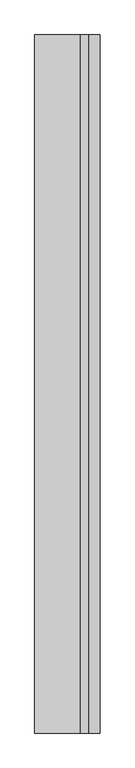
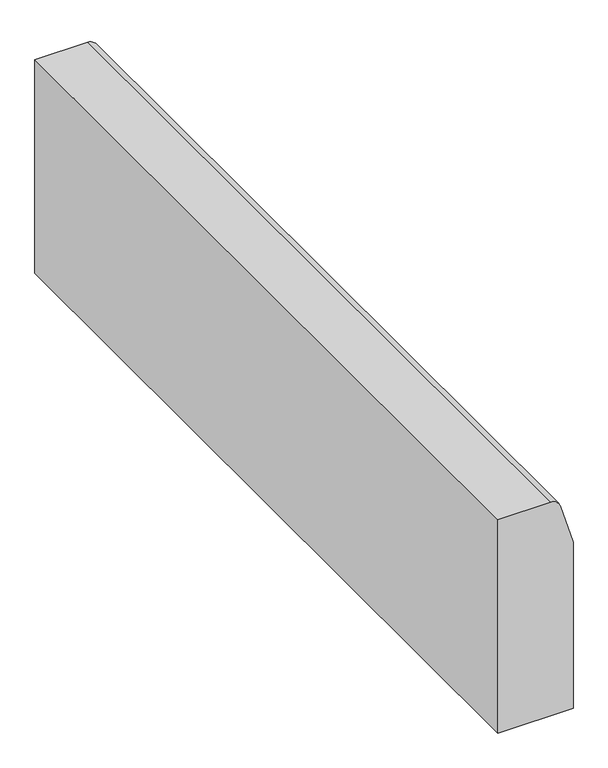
"""IFC4 building model written with IfcOpenShell, lengths in millimetres: railing geometry, BORDILLO BARRERA RECTA_MDSA-U10-4540_TITAN_40x45x15."""

from ifc_helpers import new_model, si_unit, point, frame, frame_2d, origin, place, context, project, spatial, polyline, circle_curve, trimmed, segment, composite_curve, outline, extrude, source, transform, mapped, element, save


def railing_d3ae6c80(model_context):
    return source(origin(), model_context, "Body", "SweptSolid", [
        extrude(outline(composite_curve([segment(polyline([(450.0, -843.8343252), (0.0, -843.8343252), (0.0, -693.8343252), (350.0, -693.8343252), (435.7469577, -719.5584125)]), True, "CONTINUOUS"), segment(trimmed(circle_curve(frame_2d((430.0, -738.7149382)), 20.0), [point((435.7469577, -719.5584125))], [point((450.0, -738.7149382))], False, "CARTESIAN"), True, "CONTINUOUS"), segment(polyline([(450.0, -738.7149382), (450.0, -843.8343252)]), True, "CONTINUOUS")], self_intersect=False)), frame((0.0, 1338.5861748, 0.0), z_axis=(0.0, 1.0, 0.0), x_axis=(0.0, 0.0, 1.0)), (0.0, 0.0, 1.0), 1600.0),
    ])


if __name__ == "__main__":
    model = new_model("IFC4")
    model_context = context("Model", 3, world=origin())
    ifc_project = project(units=[si_unit("LENGTHUNIT", "METRE", prefix="MILLI")], contexts=[model_context])
    site = spatial("IfcSite", under=ifc_project)
    building = spatial("IfcBuilding", under=site)
    placement = place(None, origin())
    railing_shape = railing_d3ae6c80(model_context)
    element("IfcRailing", 1, ObjectType="BORDILLO BARRERA RECTA_MDSA-U10-4540_TITAN_40x45x15", at=placement, inside=building, context=model_context, shape_type="MappedRepresentation", body=[
        mapped(railing_shape, transform((0.0, 0.0, 0.0), x_axis=(1.0, 0.0, 0.0), y_axis=(0.0, 1.0, 0.0), z_axis=(0.0, 0.0, 1.0))),
    ])
    save(model, "model.ifc")
